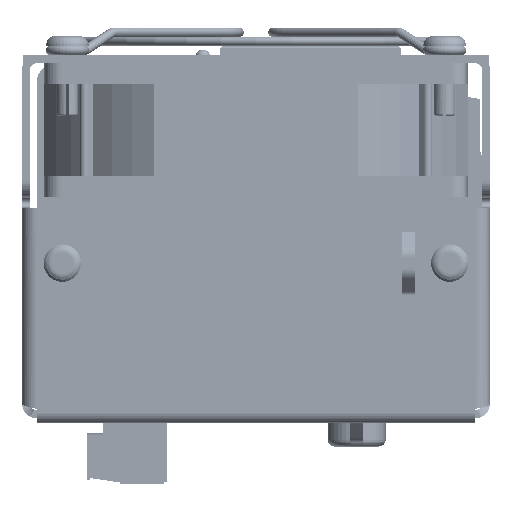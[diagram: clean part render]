
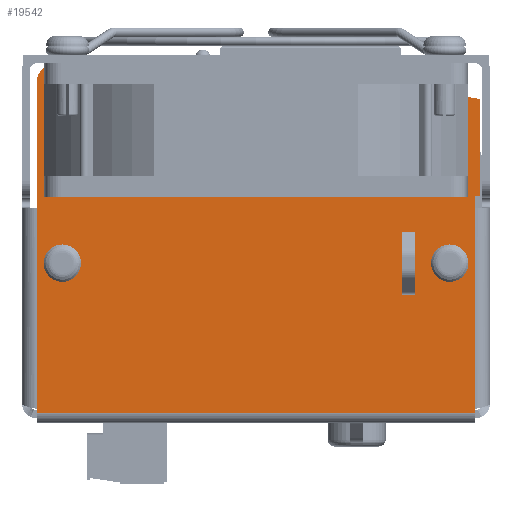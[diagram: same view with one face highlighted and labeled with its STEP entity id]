
A CAD part, left-side view. The second image highlights one B-rep face of the part: STEP entity #19542.
In plain terms, the highlighted planar face has unit normal (-1, 0, 0) as drawn and (1, 0, 0) by its records, which use the part's own axes.
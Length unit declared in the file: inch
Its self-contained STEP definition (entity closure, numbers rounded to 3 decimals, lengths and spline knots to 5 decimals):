
#17382=DIRECTION('',(0.,0.,-1.));
#17383=VECTOR('',#17382,3.267);
#17384=CARTESIAN_POINT('',(1.665,-0.078,1.6335));
#17385=LINE('',#17384,#17383);
#17400=CARTESIAN_POINT('',(1.665,-1.191,-1.4425));
#17401=DIRECTION('',(1.,0.,0.));
#17402=DIRECTION('',(0.,-1.,0.));
#17403=AXIS2_PLACEMENT_3D('',#17400,#17401,#17402);
#17405=CARTESIAN_POINT('',(1.665,-1.191,-1.4425));
#17406=DIRECTION('',(1.,0.,0.));
#17407=DIRECTION('',(0.,1.,0.));
#17408=AXIS2_PLACEMENT_3D('',#17405,#17406,#17407);
#17410=CARTESIAN_POINT('',(1.665,-1.191,1.4425));
#17411=DIRECTION('',(1.,0.,0.));
#17412=DIRECTION('',(0.,-1.,0.));
#17413=AXIS2_PLACEMENT_3D('',#17410,#17411,#17412);
#17415=CARTESIAN_POINT('',(1.665,-1.191,1.4425));
#17416=DIRECTION('',(1.,0.,0.));
#17417=DIRECTION('',(0.,1.,0.));
#17418=AXIS2_PLACEMENT_3D('',#17415,#17416,#17417);
#17420=CARTESIAN_POINT('',(1.665,-2.54,-1.5085));
#17421=DIRECTION('',(1.,0.,0.));
#17422=DIRECTION('',(0.,-1.,0.));
#17423=AXIS2_PLACEMENT_3D('',#17420,#17421,#17422);
#17425=DIRECTION('',(0.,0.,1.));
#17426=VECTOR('',#17425,2.926);
#17427=CARTESIAN_POINT('',(1.665,-2.665,-1.5085));
#17428=LINE('',#17427,#17426);
#17429=CARTESIAN_POINT('',(1.665,-2.665,1.6675));
#17430=DIRECTION('',(1.,0.,0.));
#17431=DIRECTION('',(0.,0.,-1.));
#17432=AXIS2_PLACEMENT_3D('',#17429,#17430,#17431);
#17434=DIRECTION('',(0.,1.,0.));
#17435=VECTOR('',#17434,0.725);
#17436=CARTESIAN_POINT('',(1.665,-2.415,1.6675));
#17437=LINE('',#17436,#17435);
#17438=DIRECTION('',(0.,0.,-1.));
#17439=VECTOR('',#17438,0.034);
#17440=CARTESIAN_POINT('',(1.665,-1.69,1.6675));
#17441=LINE('',#17440,#17439);
#17442=DIRECTION('',(0.,1.,0.));
#17443=VECTOR('',#17442,1.612);
#17444=CARTESIAN_POINT('',(1.665,-1.69,1.6335));
#17445=LINE('',#17444,#17443);
#17446=DIRECTION('',(0.,-1.,0.));
#17447=VECTOR('',#17446,2.462);
#17448=CARTESIAN_POINT('',(1.665,-0.078,-1.6335));
#17449=LINE('',#17448,#17447);
#17450=DIRECTION('',(0.,-1.,0.));
#17451=VECTOR('',#17450,0.47071);
#17452=CARTESIAN_POINT('',(1.665,-0.95565,1.184));
#17453=LINE('',#17452,#17451);
#17454=DIRECTION('',(0.,0.,1.));
#17455=VECTOR('',#17454,0.1);
#17456=CARTESIAN_POINT('',(1.665,-1.42635,1.084));
#17457=LINE('',#17456,#17455);
#17458=DIRECTION('',(0.,-1.,0.));
#17459=VECTOR('',#17458,0.47071);
#17460=CARTESIAN_POINT('',(1.665,-0.95565,1.084));
#17461=LINE('',#17460,#17459);
#17462=DIRECTION('',(0.,0.,1.));
#17463=VECTOR('',#17462,0.1);
#17464=CARTESIAN_POINT('',(1.665,-0.95565,1.084));
#17465=LINE('',#17464,#17463);
#18606=CARTESIAN_POINT('',(1.665,-1.69,1.6335));
#18607=CARTESIAN_POINT('',(1.665,-0.078,1.6335));
#18608=VERTEX_POINT('',#18606);
#18609=VERTEX_POINT('',#18607);
#18614=CARTESIAN_POINT('',(1.665,-0.078,-1.6335));
#18616=VERTEX_POINT('',#18614);
#18646=CARTESIAN_POINT('',(1.665,-1.2765,-1.4425));
#18647=CARTESIAN_POINT('',(1.665,-1.1055,-1.4425));
#18648=VERTEX_POINT('',#18646);
#18649=VERTEX_POINT('',#18647);
#18650=CARTESIAN_POINT('',(1.665,-1.2765,1.4425));
#18651=CARTESIAN_POINT('',(1.665,-1.1055,1.4425));
#18652=VERTEX_POINT('',#18650);
#18653=VERTEX_POINT('',#18651);
#18730=CARTESIAN_POINT('',(1.665,-2.665,-1.5085));
#18731=CARTESIAN_POINT('',(1.665,-2.54,-1.6335));
#18732=VERTEX_POINT('',#18730);
#18733=VERTEX_POINT('',#18731);
#18742=CARTESIAN_POINT('',(1.665,-2.665,1.4175));
#18743=VERTEX_POINT('',#18742);
#18934=CARTESIAN_POINT('',(1.665,-0.95565,1.184));
#18935=CARTESIAN_POINT('',(1.665,-1.42635,1.184));
#18936=VERTEX_POINT('',#18934);
#18937=VERTEX_POINT('',#18935);
#18938=CARTESIAN_POINT('',(1.665,-0.95565,1.084));
#18939=CARTESIAN_POINT('',(1.665,-1.42635,1.084));
#18940=VERTEX_POINT('',#18938);
#18941=VERTEX_POINT('',#18939);
#19014=CARTESIAN_POINT('',(1.665,-2.415,1.6675));
#19015=CARTESIAN_POINT('',(1.665,-1.69,1.6675));
#19016=VERTEX_POINT('',#19014);
#19017=VERTEX_POINT('',#19015);
#19498=CARTESIAN_POINT('',(1.665,0.,0.85726));
#19499=DIRECTION('',(-1.,0.,0.));
#19500=DIRECTION('',(0.,0.,-1.));
#19501=AXIS2_PLACEMENT_3D('',#19498,#19499,#19500);
#19502=PLANE('',#19501);
#19504=ORIENTED_EDGE('',*,*,#19503,.F.);
#19506=ORIENTED_EDGE('',*,*,#19505,.T.);
#19508=ORIENTED_EDGE('',*,*,#19507,.T.);
#19510=ORIENTED_EDGE('',*,*,#19509,.T.);
#19512=ORIENTED_EDGE('',*,*,#19511,.T.);
#19514=ORIENTED_EDGE('',*,*,#19513,.T.);
#19515=ORIENTED_EDGE('',*,*,#19488,.T.);
#19517=ORIENTED_EDGE('',*,*,#19516,.T.);
#19518=EDGE_LOOP('',(#19504,#19506,#19508,#19510,#19512,#19514,#19515,#19517));
#19519=FACE_OUTER_BOUND('',#19518,.F.);
#19521=ORIENTED_EDGE('',*,*,#19520,.T.);
#19523=ORIENTED_EDGE('',*,*,#19522,.T.);
#19524=EDGE_LOOP('',(#19521,#19523));
#19525=FACE_BOUND('',#19524,.F.);
#19527=ORIENTED_EDGE('',*,*,#19526,.T.);
#19529=ORIENTED_EDGE('',*,*,#19528,.T.);
#19530=EDGE_LOOP('',(#19527,#19529));
#19531=FACE_BOUND('',#19530,.F.);
#19533=ORIENTED_EDGE('',*,*,#19532,.T.);
#19535=ORIENTED_EDGE('',*,*,#19534,.F.);
#19537=ORIENTED_EDGE('',*,*,#19536,.F.);
#19539=ORIENTED_EDGE('',*,*,#19538,.T.);
#19540=EDGE_LOOP('',(#19533,#19535,#19537,#19539));
#19541=FACE_BOUND('',#19540,.F.);
#17404=CIRCLE('',#17403,0.0855);
#17409=CIRCLE('',#17408,0.0855);
#17414=CIRCLE('',#17413,0.0855);
#17419=CIRCLE('',#17418,0.0855);
#17424=CIRCLE('',#17423,0.125);
#17433=CIRCLE('',#17432,0.25);
#19488=EDGE_CURVE('',#18609,#18616,#17385,.T.);
#19503=EDGE_CURVE('',#18732,#18733,#17424,.T.);
#19505=EDGE_CURVE('',#18732,#18743,#17428,.T.);
#19507=EDGE_CURVE('',#18743,#19016,#17433,.T.);
#19509=EDGE_CURVE('',#19016,#19017,#17437,.T.);
#19511=EDGE_CURVE('',#19017,#18608,#17441,.T.);
#19513=EDGE_CURVE('',#18608,#18609,#17445,.T.);
#19516=EDGE_CURVE('',#18616,#18733,#17449,.T.);
#19520=EDGE_CURVE('',#18652,#18653,#17414,.T.);
#19522=EDGE_CURVE('',#18653,#18652,#17419,.T.);
#19526=EDGE_CURVE('',#18648,#18649,#17404,.T.);
#19528=EDGE_CURVE('',#18649,#18648,#17409,.T.);
#19532=EDGE_CURVE('',#18936,#18937,#17453,.T.);
#19534=EDGE_CURVE('',#18941,#18937,#17457,.T.);
#19536=EDGE_CURVE('',#18940,#18941,#17461,.T.);
#19538=EDGE_CURVE('',#18940,#18936,#17465,.T.);
#19542=ADVANCED_FACE('',(#19519,#19525,#19531,#19541),#19502,.F.);
